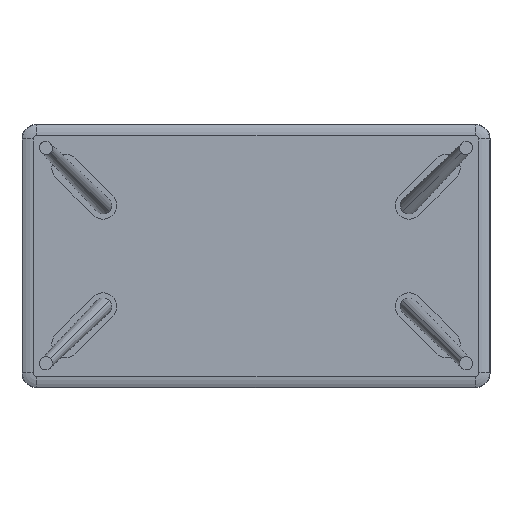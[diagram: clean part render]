
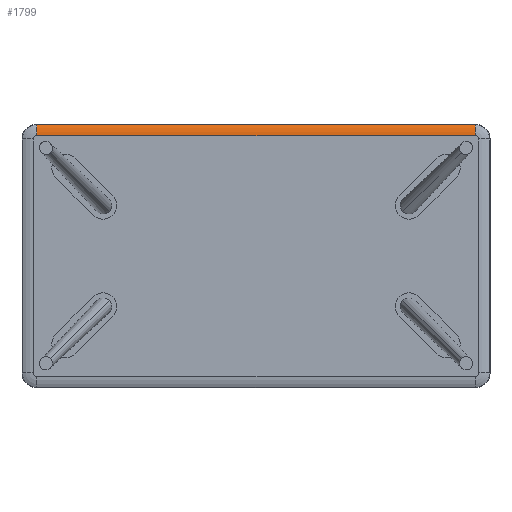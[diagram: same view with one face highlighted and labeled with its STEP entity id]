
A CAD part, top view. The second image highlights one B-rep face of the part: STEP entity #1799.
In plain terms, the highlighted cylindrical face has radius 80 mm (diameter 160 mm), a partial arc.
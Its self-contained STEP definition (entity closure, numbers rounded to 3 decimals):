
#53 = VECTOR ( 'NONE', #3114, 1000. ) ;
#238 = DIRECTION ( 'NONE',  ( 1., 0., 0. ) ) ;
#532 = CARTESIAN_POINT ( 'NONE',  ( 50., 861.27, 30. ) ) ;
#682 = CARTESIAN_POINT ( 'NONE',  ( 1550., 861.27, -50. ) ) ;
#983 = CIRCLE ( 'NONE', #2851, 80. ) ;
#995 = CIRCLE ( 'NONE', #3457, 80. ) ;
#1095 = VERTEX_POINT ( 'NONE', #3095 ) ;
#1374 = LINE ( 'NONE', #2770, #53 ) ;
#1563 = EDGE_CURVE ( 'Defeatured_0_33+Defeatured_0_32+Defeatured_0_54+Defeatured_0_0', #2280, #1607, #995, .T. ) ;
#1607 = VERTEX_POINT ( 'NONE', #3659 ) ;
#1625 = CARTESIAN_POINT ( 'NONE',  ( 1550., 861.27, 30. ) ) ;
#1640 = CARTESIAN_POINT ( 'NONE',  ( 50., 861.27, -50. ) ) ;
#1780 = FACE_OUTER_BOUND ( 'NONE', #3296, .T. ) ;
#1787 = AXIS2_PLACEMENT_3D ( 'NONE', #3445, #3183, #2924 ) ;
#1799 = ADVANCED_FACE ( 'Defeatured_0_32', ( #1780 ), #3479, .T. ) ;
#1822 = CARTESIAN_POINT ( 'NONE',  ( 1550., 898.942, 20.575 ) ) ;
#1840 = DIRECTION ( 'NONE',  ( 1., 0., 0. ) ) ;
#2125 = ORIENTED_EDGE ( 'NONE', *, *, #3444, .F. ) ;
#2253 = DIRECTION ( 'NONE',  ( 0., 0., -1. ) ) ;
#2280 = VERTEX_POINT ( 'NONE', #1822 ) ;
#2444 = VERTEX_POINT ( 'NONE', #532 ) ;
#2570 = ORIENTED_EDGE ( 'NONE', *, *, #1563, .F. ) ;
#2694 = DIRECTION ( 'NONE',  ( 0., 0., -1. ) ) ;
#2704 = ORIENTED_EDGE ( 'NONE', *, *, #3488, .T. ) ;
#2758 = EDGE_CURVE ( 'Defeatured_0_32+Defeatured_0_56+Defeatured_0_33+Defeatured_0_39', #2280, #1095, #1374, .T. ) ;
#2770 = CARTESIAN_POINT ( 'NONE',  ( 1550., 898.942, 20.575 ) ) ;
#2837 = ORIENTED_EDGE ( 'NONE', *, *, #2758, .T. ) ;
#2851 = AXIS2_PLACEMENT_3D ( 'NONE', #1640, #238, #2253 ) ;
#2924 = DIRECTION ( 'NONE',  ( 0., 0., 1. ) ) ;
#3095 = CARTESIAN_POINT ( 'NONE',  ( 50., 898.942, 20.575 ) ) ;
#3114 = DIRECTION ( 'NONE',  ( -1., 0., 0. ) ) ;
#3183 = DIRECTION ( 'NONE',  ( -1., 0., 0. ) ) ;
#3284 = DIRECTION ( 'NONE',  ( -1., 0., 0. ) ) ;
#3296 = EDGE_LOOP ( 'NONE', ( #2570, #2837, #2704, #2125 ) ) ;
#3444 = EDGE_CURVE ( 'Defeatured_0_0+Defeatured_0_32+Defeatured_0_33+Defeatured_0_39', #1607, #2444, #3530, .T. ) ;
#3445 = CARTESIAN_POINT ( 'NONE',  ( 1550., 861.27, -50. ) ) ;
#3457 = AXIS2_PLACEMENT_3D ( 'NONE', #682, #1840, #2694 ) ;
#3479 = CYLINDRICAL_SURFACE ( 'NONE', #1787, 80. ) ;
#3488 = EDGE_CURVE ( 'Defeatured_0_32+Defeatured_0_39+Defeatured_0_56+Defeatured_0_0', #1095, #2444, #983, .T. ) ;
#3530 = LINE ( 'NONE', #1625, #3688 ) ;
#3659 = CARTESIAN_POINT ( 'NONE',  ( 1550., 861.27, 30. ) ) ;
#3688 = VECTOR ( 'NONE', #3284, 1000. ) ;
